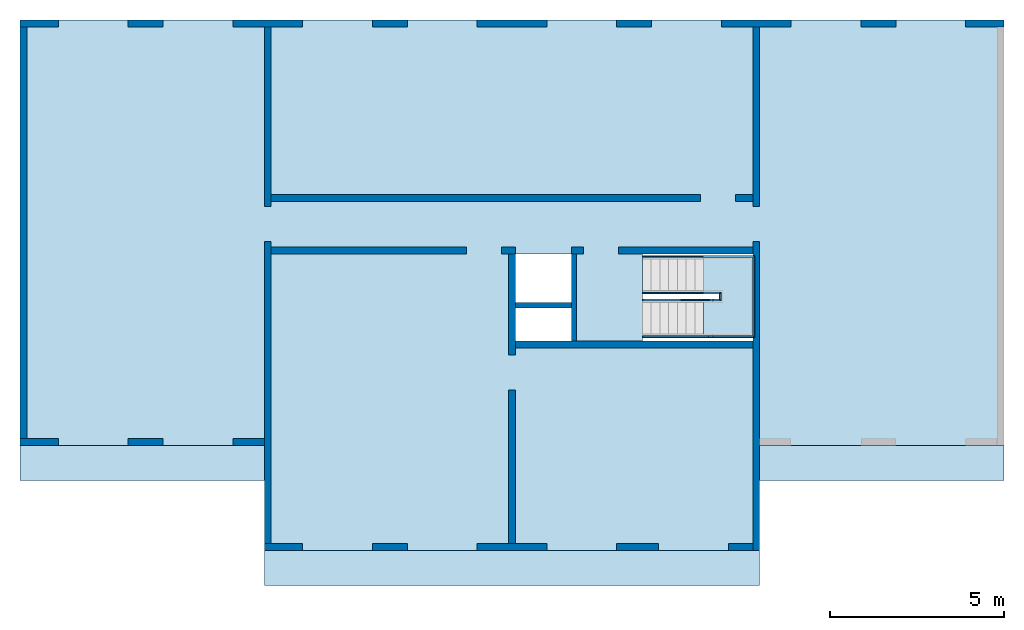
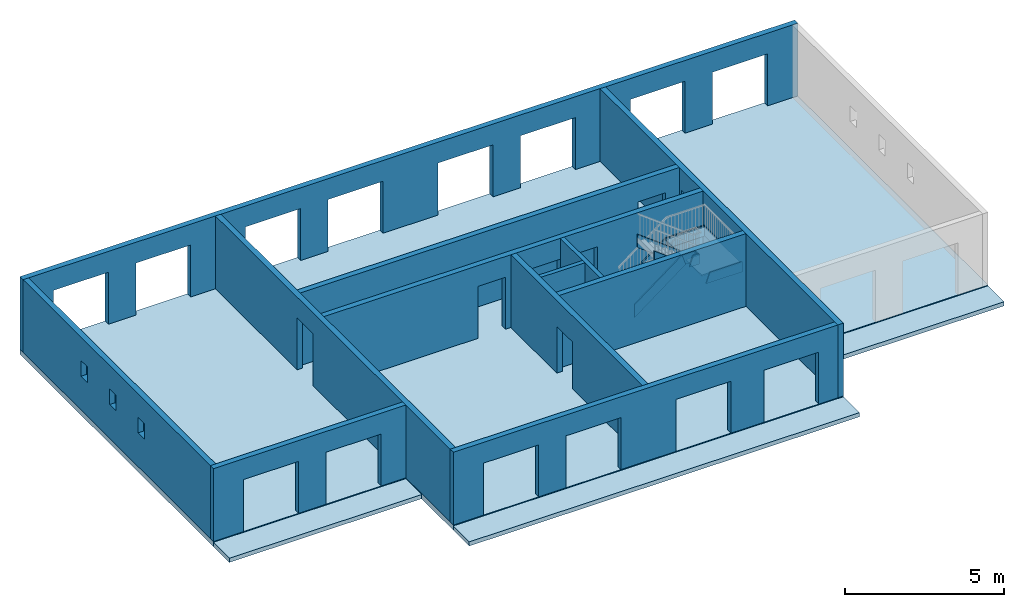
# One storey, part 1 of 3: 12 walls, 10 members, 3 slabs, 27 openings, 1 element without a shape of its own.
"""IFC2X3 building model written with IfcOpenShell, lengths in metres."""

from ifc_helpers import new_model, entity, si_unit, converted_unit, derived_unit, direction, frame, frame_2d, origin, origin_2d_with_axis, place, context, subcontext, project, spatial, polyline, rectangle, outline, extrude, faceted_brep, material, layer, layer_set, layer_usage, type_object, element, aggregate, save


model = new_model("IFC2X3")

# Units and contexts
model_context = context("Model", 3, precision=1e-05, world=origin(), true_north=direction((6.12303176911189e-17, 1.0)))
context_of_model = context(None, 3, precision=1e-05, world=origin(), true_north=direction((6.12303176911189e-17, 1.0)))
body_context = subcontext(model_context, "Body", "Model", "MODEL_VIEW")
ifc_project = project(units=[si_unit("LENGTHUNIT", "METRE"), si_unit("AREAUNIT", "SQUARE_METRE"), si_unit("VOLUMEUNIT", "CUBIC_METRE"), converted_unit("PLANEANGLEUNIT", "DEGREE", entity("IfcRatioMeasure", 0.0174532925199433), si_unit("PLANEANGLEUNIT", "RADIAN"), dimensions=[0, 0, 0, 0, 0, 0, 0]), si_unit("MASSUNIT", "GRAM", prefix="KILO"), derived_unit("MASSDENSITYUNIT", [(si_unit("MASSUNIT", "GRAM", prefix="KILO"), 1), (si_unit("LENGTHUNIT", "METRE"), -3)]), si_unit("TIMEUNIT", "SECOND"), si_unit("FREQUENCYUNIT", "HERTZ"), si_unit("THERMODYNAMICTEMPERATUREUNIT", "DEGREE_CELSIUS"), derived_unit("THERMALTRANSMITTANCEUNIT", [(si_unit("MASSUNIT", "GRAM", prefix="KILO"), 1), (si_unit("THERMODYNAMICTEMPERATUREUNIT", "KELVIN"), -1), (si_unit("TIMEUNIT", "SECOND"), -3)]), derived_unit("VOLUMETRICFLOWRATEUNIT", [(si_unit("LENGTHUNIT", "METRE"), 3), (si_unit("TIMEUNIT", "SECOND"), -1)]), si_unit("ELECTRICCURRENTUNIT", "AMPERE"), si_unit("ELECTRICVOLTAGEUNIT", "VOLT"), si_unit("POWERUNIT", "WATT"), si_unit("FORCEUNIT", "NEWTON"), si_unit("ILLUMINANCEUNIT", "LUX"), si_unit("LUMINOUSFLUXUNIT", "LUMEN"), si_unit("LUMINOUSINTENSITYUNIT", "CANDELA"), derived_unit("USERDEFINED", [(si_unit("MASSUNIT", "GRAM", prefix="KILO"), -1), (si_unit("LENGTHUNIT", "METRE"), -2), (si_unit("TIMEUNIT", "SECOND"), 3), (si_unit("LUMINOUSFLUXUNIT", "LUMEN"), 1)]), derived_unit("LINEARVELOCITYUNIT", [(si_unit("LENGTHUNIT", "METRE"), 1), (si_unit("TIMEUNIT", "SECOND"), -1)]), si_unit("PRESSUREUNIT", "PASCAL"), derived_unit("USERDEFINED", [(si_unit("LENGTHUNIT", "METRE"), -2), (si_unit("MASSUNIT", "GRAM", prefix="KILO"), 1), (si_unit("TIMEUNIT", "SECOND"), -2)])], contexts=[model_context, context_of_model])

# Site, building, storey
site_placement = place(None, origin())
site = spatial("IfcSite", under=ifc_project, at=site_placement, Name="Default", CompositionType="ELEMENT")
building_placement = place(site_placement, origin())
building = spatial("IfcBuilding", under=site, at=building_placement, CompositionType="ELEMENT")
storey_placement = place(building_placement, frame((0.0, 0.0, 9.0)))
storey = spatial("IfcBuildingStorey", under=building, at=storey_placement, Name="R+3", CompositionType="ELEMENT", Elevation=8.99999999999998)

# Stair, members
stair_placement = place(storey_placement, origin())
stair = element("IfcStair", 1, at=stair_placement, inside=storey, Name="Escalier assemblé:Escalier", ObjectType="Escalier assemblé:Contremarche 190 mm max marche 250\xa0mm", ShapeType="NOTDEFINED")
member_type = type_object("IfcMemberType", Name="Limon à la française:Limon à la française - 50 mm de largeur", PredefinedType="STRINGER")
member_1_placement = place(stair_placement, origin())
member_1 = element("IfcMember", 2, at=member_1_placement, type_object=member_type, Name="Escalier assemblé:Escalier:468213 Stringer 1", ObjectType="Escalier assemblé:Contremarche 190 mm max marche 250\xa0mm", context=body_context, shape_type="SweptSolid", body=[
    extrude(outline(polyline([(-0.973212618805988, -0.200000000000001), (1.19067644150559, -0.200000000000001), (1.0569252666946, 0.199999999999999), (-1.27438908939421, 0.2), (-0.973212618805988, -0.200000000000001)])), frame((6.43043564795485, 2.2618101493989, 0.853112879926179), z_axis=(0.0, 1.0, 0.0), x_axis=(0.798870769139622, 0.0, 0.601502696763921)), (0.0, 0.0, 1.0), 0.05),
])
member_2_placement = place(stair_placement, origin())
member_2 = element("IfcMember", 3, at=member_2_placement, type_object=member_type, Name="Escalier assemblé:Escalier:468213 Stringer 2", ObjectType="Escalier assemblé:Contremarche 190 mm max marche 250\xa0mm", context=body_context, shape_type="SweptSolid", body=[
    extrude(outline(polyline([(-0.973212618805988, -0.2), (1.19067644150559, -0.2), (1.05692526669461, 0.2), (-1.27438908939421, 0.2), (-0.973212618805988, -0.2)])), frame((6.43043564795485, 1.2118101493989, 0.853112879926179), z_axis=(0.0, 1.0, 0.0), x_axis=(0.798870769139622, 0.0, 0.601502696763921)), (0.0, 0.0, 1.0), 0.0500000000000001),
])
member_3_placement = place(stair_placement, origin())
member_3 = element("IfcMember", 4, at=member_3_placement, type_object=member_type, Name="Escalier assemblé:Escalier:468213 Stringer 3", ObjectType="Escalier assemblé:Contremarche 190 mm max marche 250\xa0mm", context=body_context, shape_type="SweptSolid", body=[
    extrude(outline(polyline([(-1.2901377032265, -0.2), (1.0726738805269, -0.200000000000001), (1.37385035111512, 0.199999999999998), (-1.15638652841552, 0.199999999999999), (-1.2901377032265, -0.2)])), frame((6.50989234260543, -0.0381898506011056, 2.26487758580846), z_axis=(0.0, 1.0, 0.0), x_axis=(-0.798870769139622, 0.0, 0.60150269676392)), (0.0, 0.0, 1.0), 0.05),
])
member_4_placement = place(stair_placement, origin())
member_4 = element("IfcMember", 5, at=member_4_placement, type_object=member_type, Name="Escalier assemblé:Escalier:468213 Stringer 4", ObjectType="Escalier assemblé:Contremarche 190 mm max marche 250\xa0mm", context=body_context, shape_type="SweptSolid", body=[
    extrude(outline(polyline([(-1.2901377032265, -0.2), (1.0726738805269, -0.200000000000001), (1.37385035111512, 0.199999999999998), (-1.15638652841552, 0.199999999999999), (-1.2901377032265, -0.2)])), frame((6.50989234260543, 1.01181014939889, 2.26487758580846), z_axis=(0.0, 1.0, 0.0), x_axis=(-0.798870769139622, 0.0, 0.60150269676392)), (0.0, 0.0, 1.0), 0.05),
])
member_5_placement = place(stair_placement, frame((7.42024510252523, -0.0381898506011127, 1.32908212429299)))
member_5 = element("IfcMember", 6, at=member_5_placement, type_object=member_type, Name="Escalier assemblé:Escalier:468213 Stringer 5", ObjectType="Escalier assemblé:Contremarche 190 mm max marche 250\xa0mm", context=body_context, shape_type="Brep", body=[
    faceted_brep([(0.133751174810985, 0.0500000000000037, 0.4), (0.133751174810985, 0.0, 0.4), (1.32241889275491, 0.0, 0.4), (1.27241889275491, 0.0500000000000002, 0.4), (0.0, 0.0500000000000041, 0.0), (1.27241889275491, 0.0500000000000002, 0.0), (0.0, 0.0, 0.0), (1.32241889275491, 0.0, 0.0)], [[[0, 1, 2, 3]], [[4, 0, 3, 5]], [[6, 4, 5, 7]], [[1, 6, 7, 2]], [[1, 0, 4, 6]], [[2, 7, 5, 3]]]),
])
member_6_placement = place(stair_placement, origin())
member_6 = element("IfcMember", 7, at=member_6_placement, type_object=member_type, Name="Escalier assemblé:Escalier:468213 Stringer 6", ObjectType="Escalier assemblé:Contremarche 190 mm max marche 250\xa0mm", context=body_context, shape_type="SweptSolid", body=[
    extrude(outline(polyline([(-1.17500000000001, -0.0249999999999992), (1.17500000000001, -0.0249999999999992), (1.125, 0.0250000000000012), (-1.125, 0.0250000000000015), (-1.17500000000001, -0.0249999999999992)])), frame((8.71766399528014, 1.13681014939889, 1.32908212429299), z_axis=(0.0, 0.0, 1.0), x_axis=(0.0, 1.0, 0.0)), (0.0, 0.0, 1.0), 0.4),
])
member_7_placement = place(stair_placement, frame((7.26133171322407, 2.2618101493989, 1.32908212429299)))
member_7 = element("IfcMember", 8, at=member_7_placement, type_object=member_type, Name="Escalier assemblé:Escalier:468213 Stringer 7", ObjectType="Escalier assemblé:Contremarche 190 mm max marche 250\xa0mm", context=body_context, shape_type="Brep", body=[
    faceted_brep([(1.43133228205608, 0.0, 0.4), (1.48133228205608, 0.0499999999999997, 0.4), (0.0, 0.0500000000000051, 0.4), (0.0, 0.0, 0.4), (1.43133228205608, 0.0, 0.0), (0.133751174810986, 0.0, 0.0), (1.48133228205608, 0.0499999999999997, 0.0), (0.133751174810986, 0.0500000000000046, 0.0)], [[[0, 1, 2, 3]], [[4, 0, 3, 5]], [[6, 4, 5, 7]], [[1, 6, 7, 2]], [[1, 0, 4, 6]], [[2, 7, 5, 3]]]),
])
member_8_placement = place(stair_placement, frame((7.26133171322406, 1.2118101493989, 1.32908212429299)))
member_8 = element("IfcMember", 9, at=member_8_placement, type_object=member_type, Name="Escalier assemblé:Escalier:468213 Stringer 8", ObjectType="Escalier assemblé:Contremarche 190 mm max marche 250\xa0mm", context=body_context, shape_type="Brep", body=[
    faceted_brep([(0.0, 0.0500000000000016, 0.4), (0.0, 0.0, 0.4), (0.471332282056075, 0.0, 0.4), (0.521332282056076, 0.0499999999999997, 0.4), (0.133751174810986, 0.0500000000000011, 0.0), (0.521332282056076, 0.0499999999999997, 0.0), (0.133751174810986, 0.0, 0.0), (0.471332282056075, 0.0, 0.0)], [[[0, 1, 2, 3]], [[4, 0, 3, 5]], [[6, 4, 5, 7]], [[1, 6, 7, 2]], [[1, 0, 4, 6]], [[2, 7, 5, 3]]]),
])
member_9_placement = place(stair_placement, origin())
member_9 = element("IfcMember", 10, at=member_9_placement, type_object=member_type, Name="Escalier assemblé:Escalier:468213 Stringer 9", ObjectType="Escalier assemblé:Contremarche 190 mm max marche 250\xa0mm", context=body_context, shape_type="SweptSolid", body=[
    extrude(outline(polyline([(-0.0750000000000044, -0.0250000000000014), (0.0750000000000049, -0.0250000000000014), (0.125000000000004, 0.0249999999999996), (-0.125000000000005, 0.0249999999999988), (-0.0750000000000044, -0.0250000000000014)])), frame((7.75766399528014, 1.13681014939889, 1.32908212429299), z_axis=(0.0, 0.0, 1.0), x_axis=(0.0, -1.0, 0.0)), (0.0, 0.0, 1.0), 0.4),
])
member_10_placement = place(stair_placement, frame((7.42024510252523, 1.01181014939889, 1.32908212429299)))
member_10 = element("IfcMember", 11, at=member_10_placement, type_object=member_type, Name="Escalier assemblé:Escalier:468213 Stringer 10", ObjectType="Escalier assemblé:Contremarche 190 mm max marche 250\xa0mm", context=body_context, shape_type="Brep", body=[
    faceted_brep([(0.36241889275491, 0.0, 0.4), (0.31241889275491, 0.0500000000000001, 0.4), (0.133751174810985, 0.0500000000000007, 0.4), (0.133751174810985, 0.0, 0.4), (0.36241889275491, 0.0, 0.0), (0.0, 0.0, 0.0), (0.31241889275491, 0.0500000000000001, 0.0), (0.0, 0.0500000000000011, 0.0)], [[[0, 1, 2, 3]], [[4, 0, 3, 5]], [[6, 4, 5, 7]], [[1, 6, 7, 2]], [[1, 0, 4, 6]], [[2, 7, 5, 3]]]),
])

# Slab, openings
ifc_material_1 = material(Name="Béton - Coulé sur place - Béton20")
ifc_layer_1 = layer(ifc_material_1, 0.2)
ifc_layer_set_1 = layer_set([ifc_layer_1], Name="Sol:Dalle pleine 200 mm")
ifc_layer_usage_1 = layer_usage(ifc_layer_set_1, "AXIS3", "POSITIVE", 0.0)
slab_1_placement = place(storey_placement, frame((-12.3073360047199, -6.13818985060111, 0.0)))
slab_1 = element("IfcSlab", 12, at=slab_1_placement, inside=storey, material=ifc_layer_usage_1, Name="Sol:Dalle pleine 200 mm", ObjectType="Sol:Dalle pleine 200 mm", PredefinedType="FLOOR", context=body_context, shape_type="SweptSolid", body=[
    extrude(outline(polyline([(-14.1, 7.59999999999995), (-14.1, -4.60000000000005), (-7.1, -4.60000000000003), (-7.09999999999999, -7.60000000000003), (7.10000000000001, -7.59999999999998), (7.10000000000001, -4.59999999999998), (14.1, -4.59999999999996), (14.1, 7.60000000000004), (-14.1, 7.59999999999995)])), frame((14.1, 7.60000000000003, 0.199999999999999), z_axis=(0.0, 0.0, -1.0), x_axis=(-1.0, 0.0, 0.0)), (0.0, 0.0, 1.0), 0.2),
])
opening_1_placement = place(slab_1_placement, frame((15.0, 7.80000000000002, 0.2)))
element("IfcOpeningElement", 13, at=opening_1_placement, cuts=slab_1, Name="Sol:Dalle pleine 200 mm:2", ObjectType="Opening", context=body_context, shape_type="SweptSolid", body=[
    extrude(rectangle(XDim=1.4, YDim=1.6, at=origin_2d_with_axis()), frame((0.0, 0.0, 0.0), z_axis=(0.0, 0.0, -1.0), x_axis=(0.0, -1.0, 0.0)), (0.0, 0.0, 1.0), 0.2),
])
opening_2_placement = place(slab_1_placement, frame((15.0, 6.47500000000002, 0.2)))
element("IfcOpeningElement", 14, at=opening_2_placement, cuts=slab_1, Name="Sol:Dalle pleine 200 mm:3", ObjectType="Opening", context=body_context, shape_type="SweptSolid", body=[
    extrude(rectangle(XDim=0.95, YDim=1.6, at=origin_2d_with_axis()), frame((0.0, 0.0, 0.0), z_axis=(0.0, 0.0, -1.0), x_axis=(0.0, -1.0, 0.0)), (0.0, 0.0, 1.0), 0.2),
])
opening_3_placement = place(slab_1_placement, frame((19.42, 7.25, 0.2)))
element("IfcOpeningElement", 15, at=opening_3_placement, cuts=slab_1, Name="Sol:Dalle pleine 200 mm:4", ObjectType="Opening", context=body_context, shape_type="SweptSolid", body=[
    extrude(rectangle(XDim=3.16, YDim=2.49999999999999, at=origin_2d_with_axis()), frame((0.0, 0.0, 0.0), z_axis=(0.0, 0.0, -1.0), x_axis=(1.0, 0.0, 0.0)), (0.0, 0.0, 1.0), 0.2),
])

# Slab
ifc_layer_2 = layer(ifc_material_1, 0.16)
ifc_layer_set_2 = layer_set([ifc_layer_2], Name="Sol:Balcon 160 mm")
ifc_layer_usage_2 = layer_usage(ifc_layer_set_2, "AXIS3", "POSITIVE", 0.0)
slab_2_placement = place(storey_placement, origin())
element("IfcSlab", 16, at=slab_2_placement, inside=storey, material=ifc_layer_usage_2, Name="Sol:Balcon 160 mm", ObjectType="Sol:Balcon 160 mm", PredefinedType="FLOOR", context=body_context, shape_type="SweptSolid", body=[
    extrude(outline(polyline([(-0.0825000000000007, -0.5), (0.0874999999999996, -0.5), (0.0774999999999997, 0.5), (-0.0825000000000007, 0.5), (-0.0825000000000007, -0.5)])), frame((8.89266399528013, -3.63818985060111, 0.0824999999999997), z_axis=(1.0, 0.0, 0.0), x_axis=(0.0, 0.0, 1.0)), (0.0, 0.0, 1.0), 7.0),
    extrude(outline(polyline([(-0.0825000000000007, -0.5), (0.0874999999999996, -0.5), (0.0774999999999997, 0.5), (-0.0825000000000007, 0.5), (-0.0825000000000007, -0.5)])), frame((-12.3073360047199, -3.63818985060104, 0.0824999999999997), z_axis=(1.0, 0.0, 0.0), x_axis=(0.0, 0.0, 1.0)), (0.0, 0.0, 1.0), 7.0),
    extrude(outline(polyline([(-0.0824999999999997, -0.5), (0.0874999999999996, -0.5), (0.0774999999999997, 0.5), (-0.0824999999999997, 0.5), (-0.0824999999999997, -0.5)])), frame((-5.30733600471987, -6.63818985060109, 0.0824999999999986), z_axis=(1.0, 0.0, 0.0), x_axis=(0.0, 0.0, 1.0)), (0.0, 0.0, 1.0), 14.2),
])

slab_3_placement = place(stair_placement, origin())
slab_3 = element("IfcSlab", 17, at=slab_3_placement, Name="Escalier assemblé:Escalier:468213 Landing 1", ObjectType="Escalier assemblé:Contremarche 190 mm max marche 250\xa0mm", PredefinedType="LANDING", context=body_context, shape_type="SweptSolid", body=[
    extrude(outline(polyline([(-1.125, -0.477500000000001), (-0.125000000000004, -0.477500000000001), (-0.125000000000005, 0.0225000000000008), (0.125000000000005, 0.0225000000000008), (0.125000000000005, -0.477499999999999), (1.12500000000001, -0.477499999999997), (1.125, 0.932500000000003), (-1.12500000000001, 0.932500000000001), (-1.125, -0.477500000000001)])), frame((7.76016399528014, 1.1368101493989, 1.63235294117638), z_axis=(0.0, 0.0, 1.0), x_axis=(0.0, -1.0, 0.0)), (0.0, 0.0, 1.0), 0.0499999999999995),
])

aggregate(stair, [slab_3, member_1, member_2, member_3, member_4, member_5, member_6, member_7, member_8, member_9, member_10])

# Wall, openings
ifc_layer_3 = layer(ifc_material_1, 0.2)
ifc_layer_set_3 = layer_set([ifc_layer_3], Name="Mur de base:Générique - 200 mm")
ifc_layer_usage_3 = layer_usage(ifc_layer_set_3, "AXIS2", "NEGATIVE", 0.1)
wall_type_1 = type_object("IfcWallType", Name="Mur de base:Générique - 200 mm", PredefinedType="STANDARD", material=ifc_layer_set_3)
wall_1_placement = place(storey_placement, frame((-12.3073360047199, 8.96181014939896, 0.199999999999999)))
wall_1 = element("IfcWallStandardCase", 18, at=wall_1_placement, inside=storey, type_object=wall_type_1, material=ifc_layer_usage_3, Name="Mur de base:Générique - 200 mm", ObjectType="Mur de base:Générique - 200 mm:1044", context=body_context, shape_type="SweptSolid", body=[
    extrude(rectangle(XDim=28.2, YDim=0.2, at=frame_2d((14.1, 3.19189119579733e-16), x_axis=(-1.0, 0.0))), origin(), (0.0, 0.0, 1.0), 2.80000000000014),
])
opening_4_placement = place(wall_1_placement, frame((25.1, -0.0999999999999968, 0.0)))
element("IfcOpeningElement", 19, at=opening_4_placement, cuts=wall_1, Name="M_Porte-Ouverture:2000 x 2000 mm:1", ObjectType="Opening", context=body_context, shape_type="SweptSolid", body=[
    extrude(rectangle(XDim=2.0, YDim=2.0, at=frame_2d((1.0, 1.0), x_axis=(-1.0, 0.0))), frame((0.0, 0.0, 0.0), z_axis=(0.0, 1.0, 0.0), x_axis=(0.0, 0.0, 1.0)), (0.0, 0.0, 1.0), 0.2),
])
opening_5_placement = place(wall_1_placement, frame((22.1, -0.10000000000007, 0.0)))
element("IfcOpeningElement", 20, at=opening_5_placement, cuts=wall_1, Name="M_Porte-Ouverture:2000 x 2000 mm:1", ObjectType="Opening", context=body_context, shape_type="SweptSolid", body=[
    extrude(rectangle(XDim=2.0, YDim=2.0, at=frame_2d((1.0, 1.0), x_axis=(-1.0, 0.0))), frame((0.0, 0.0, 0.0), z_axis=(0.0, 1.0, 0.0), x_axis=(0.0, 0.0, 1.0)), (0.0, 0.0, 1.0), 0.2),
])
opening_6_placement = place(wall_1_placement, frame((1.10000000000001, -0.0999999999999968, 0.0)))
element("IfcOpeningElement", 21, at=opening_6_placement, cuts=wall_1, Name="M_Porte-Ouverture:2000 x 2000 mm:1", ObjectType="Opening", context=body_context, shape_type="SweptSolid", body=[
    extrude(rectangle(XDim=2.0, YDim=2.0, at=frame_2d((1.0, 1.0), x_axis=(-1.0, 0.0))), frame((0.0, 0.0, 0.0), z_axis=(0.0, 1.0, 0.0), x_axis=(0.0, 0.0, 1.0)), (0.0, 0.0, 1.0), 0.2),
])
opening_7_placement = place(wall_1_placement, frame((4.1, -0.0999999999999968, 0.0)))
element("IfcOpeningElement", 22, at=opening_7_placement, cuts=wall_1, Name="M_Porte-Ouverture:2000 x 2000 mm:1", ObjectType="Opening", context=body_context, shape_type="SweptSolid", body=[
    extrude(rectangle(XDim=2.0, YDim=2.0, at=frame_2d((1.0, 1.0), x_axis=(-1.0, 0.0))), frame((0.0, 0.0, 0.0), z_axis=(0.0, 1.0, 0.0), x_axis=(0.0, 0.0, 1.0)), (0.0, 0.0, 1.0), 0.2),
])
opening_8_placement = place(wall_1_placement, frame((8.1, -0.0999999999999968, 0.0)))
element("IfcOpeningElement", 23, at=opening_8_placement, cuts=wall_1, Name="M_Porte-Ouverture:2000 x 2000 mm:1", ObjectType="Opening", context=body_context, shape_type="SweptSolid", body=[
    extrude(rectangle(XDim=2.0, YDim=2.0, at=frame_2d((1.0, 1.0), x_axis=(-1.0, 0.0))), frame((0.0, 0.0, 0.0), z_axis=(0.0, 1.0, 0.0), x_axis=(0.0, 0.0, 1.0)), (0.0, 0.0, 1.0), 0.2),
])
opening_9_placement = place(wall_1_placement, frame((18.1, -0.100000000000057, 0.0)))
element("IfcOpeningElement", 24, at=opening_9_placement, cuts=wall_1, Name="M_Porte-Ouverture:2000 x 2000 mm:1", ObjectType="Opening", context=body_context, shape_type="SweptSolid", body=[
    extrude(rectangle(XDim=2.0, YDim=2.0, at=frame_2d((1.0, 1.0), x_axis=(-1.0, 0.0))), frame((0.0, 0.0, 0.0), z_axis=(0.0, 1.0, 0.0), x_axis=(0.0, 0.0, 1.0)), (0.0, 0.0, 1.0), 0.2),
])
opening_10_placement = place(wall_1_placement, frame((15.1, -0.100000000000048, 0.0)))
element("IfcOpeningElement", 25, at=opening_10_placement, cuts=wall_1, Name="M_Porte-Ouverture:2000 x 2000 mm:1", ObjectType="Opening", context=body_context, shape_type="SweptSolid", body=[
    extrude(rectangle(XDim=2.0, YDim=2.0, at=frame_2d((1.0, 1.0), x_axis=(-1.0, 0.0))), frame((0.0, 0.0, 0.0), z_axis=(0.0, 1.0, 0.0), x_axis=(0.0, 0.0, 1.0)), (0.0, 0.0, 1.0), 0.2),
])
opening_11_placement = place(wall_1_placement, frame((11.1, -0.100000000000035, 0.0)))
element("IfcOpeningElement", 26, at=opening_11_placement, cuts=wall_1, Name="M_Porte-Ouverture:2000 x 2000 mm:1", ObjectType="Opening", context=body_context, shape_type="SweptSolid", body=[
    extrude(rectangle(XDim=2.0, YDim=2.0, at=frame_2d((1.0, 1.0), x_axis=(-1.0, 0.0))), frame((0.0, 0.0, 0.0), z_axis=(0.0, 1.0, 0.0), x_axis=(0.0, 0.0, 1.0)), (0.0, 0.0, 1.0), 0.2),
])

# Wall, opening
ifc_layer_usage_4 = layer_usage(ifc_layer_set_3, "AXIS2", "NEGATIVE", 0.1)
wall_2_placement = place(storey_placement, frame((8.79266399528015, 8.86181014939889, 0.199999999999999), z_axis=(0.0, 0.0, 1.0), x_axis=(0.0, -1.0, 0.0)))
wall_2 = element("IfcWallStandardCase", 27, at=wall_2_placement, inside=storey, type_object=wall_type_1, material=ifc_layer_usage_4, Name="Mur de base:Générique - 200 mm", ObjectType="Mur de base:Générique - 200 mm:1044", context=body_context, shape_type="SweptSolid", body=[
    extrude(rectangle(XDim=15.0, YDim=0.2, at=frame_2d((7.5, 0.0), x_axis=(-1.0, 0.0))), origin(), (0.0, 0.0, 1.0), 2.80000000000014),
])
opening_12_placement = place(wall_2_placement, frame((5.15, -0.100000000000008, 0.0)))
element("IfcOpeningElement", 28, at=opening_12_placement, cuts=wall_2, Name="M_Porte-Ouverture:1000 x 2000 mm:1", ObjectType="Opening", context=body_context, shape_type="SweptSolid", body=[
    extrude(rectangle(XDim=2.0, YDim=1.0, at=frame_2d((1.0, 0.5), x_axis=(-1.0, 0.0))), frame((0.0, 0.0, 0.0), z_axis=(0.0, 1.0, 0.0), x_axis=(0.0, 0.0, 1.0)), (0.0, 0.0, 1.0), 0.2),
])

# Wall, openings
ifc_layer_usage_5 = layer_usage(ifc_layer_set_3, "AXIS2", "NEGATIVE", 0.1)
wall_3_placement = place(storey_placement, frame((8.69266399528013, -6.03818985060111, 0.199999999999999), z_axis=(0.0, 0.0, 1.0), x_axis=(-1.0, 0.0, 0.0)))
wall_3 = element("IfcWallStandardCase", 29, at=wall_3_placement, inside=storey, type_object=wall_type_1, material=ifc_layer_usage_5, Name="Mur de base:Générique - 200 mm", ObjectType="Mur de base:Générique - 200 mm:1044", context=body_context, shape_type="SweptSolid", body=[
    extrude(rectangle(XDim=14.0, YDim=0.2, at=frame_2d((7.0, 0.0), x_axis=(-1.0, 0.0))), origin(), (0.0, 0.0, 1.0), 2.80000000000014),
])
opening_13_placement = place(wall_3_placement, frame((10.9, -0.0999999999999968, 0.0)))
element("IfcOpeningElement", 30, at=opening_13_placement, cuts=wall_3, Name="M_Porte-Ouverture:2000 x 2000 mm:1", ObjectType="Opening", context=body_context, shape_type="SweptSolid", body=[
    extrude(rectangle(XDim=2.0, YDim=2.0, at=frame_2d((1.0, 1.0), x_axis=(-1.0, 0.0))), frame((0.0, 0.0, 0.0), z_axis=(0.0, 1.0, 0.0), x_axis=(0.0, 0.0, 1.0)), (0.0, 0.0, 1.0), 0.2),
])
opening_14_placement = place(wall_3_placement, frame((7.9, -0.0999999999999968, 0.0)))
element("IfcOpeningElement", 31, at=opening_14_placement, cuts=wall_3, Name="M_Porte-Ouverture:2000 x 2000 mm:1", ObjectType="Opening", context=body_context, shape_type="SweptSolid", body=[
    extrude(rectangle(XDim=2.0, YDim=2.0, at=frame_2d((1.0, 1.0), x_axis=(-1.0, 0.0))), frame((0.0, 0.0, 0.0), z_axis=(0.0, 1.0, 0.0), x_axis=(0.0, 0.0, 1.0)), (0.0, 0.0, 1.0), 0.2),
])
opening_15_placement = place(wall_3_placement, frame((3.9, -0.0999999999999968, 0.0)))
element("IfcOpeningElement", 32, at=opening_15_placement, cuts=wall_3, Name="M_Porte-Ouverture:2000 x 2000 mm:1", ObjectType="Opening", context=body_context, shape_type="SweptSolid", body=[
    extrude(rectangle(XDim=2.0, YDim=2.0, at=frame_2d((1.0, 1.0), x_axis=(-1.0, 0.0))), frame((0.0, 0.0, 0.0), z_axis=(0.0, 1.0, 0.0), x_axis=(0.0, 0.0, 1.0)), (0.0, 0.0, 1.0), 0.2),
])
opening_16_placement = place(wall_3_placement, frame((0.699999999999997, -0.0999999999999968, 0.0)))
element("IfcOpeningElement", 33, at=opening_16_placement, cuts=wall_3, Name="M_Porte-Ouverture:2000 x 2000 mm:1", ObjectType="Opening", context=body_context, shape_type="SweptSolid", body=[
    extrude(rectangle(XDim=2.0, YDim=2.0, at=frame_2d((1.0, 1.0), x_axis=(-1.0, 0.0))), frame((0.0, 0.0, 0.0), z_axis=(0.0, 1.0, 0.0), x_axis=(0.0, 0.0, 1.0)), (0.0, 0.0, 1.0), 0.2),
])

# Wall, opening
ifc_layer_usage_6 = layer_usage(ifc_layer_set_3, "AXIS2", "NEGATIVE", 0.1)
wall_4_placement = place(storey_placement, frame((-5.20733600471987, -5.93818985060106, 0.199999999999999), z_axis=(0.0, 0.0, 1.0), x_axis=(0.0, 1.0, 0.0)))
wall_4 = element("IfcWallStandardCase", 34, at=wall_4_placement, inside=storey, type_object=wall_type_1, material=ifc_layer_usage_6, Name="Mur de base:Générique - 200 mm", ObjectType="Mur de base:Générique - 200 mm:1044", context=body_context, shape_type="SweptSolid", body=[
    extrude(rectangle(XDim=14.8, YDim=0.2, at=frame_2d((7.4, -1.66533453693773e-16), x_axis=(-1.0, 0.0))), origin(), (0.0, 0.0, 1.0), 2.80000000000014),
])
opening_17_placement = place(wall_4_placement, frame((8.65, -0.0999999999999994, 0.0)))
element("IfcOpeningElement", 35, at=opening_17_placement, cuts=wall_4, Name="M_Porte-Ouverture:1000 x 2000 mm:1", ObjectType="Opening", context=body_context, shape_type="SweptSolid", body=[
    extrude(rectangle(XDim=2.0, YDim=1.0, at=frame_2d((1.0, 0.500000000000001), x_axis=(-1.0, 0.0))), frame((0.0, 0.0, 0.0), z_axis=(0.0, 1.0, 0.0), x_axis=(0.0, 0.0, 1.0)), (0.0, 0.0, 1.0), 0.2),
])

# Wall, openings
ifc_layer_usage_7 = layer_usage(ifc_layer_set_3, "AXIS2", "NEGATIVE", 0.1)
wall_5_placement = place(storey_placement, frame((-5.30733600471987, -3.03818985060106, 0.199999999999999), z_axis=(0.0, 0.0, 1.0), x_axis=(-1.0, 0.0, 0.0)))
wall_5 = element("IfcWallStandardCase", 36, at=wall_5_placement, inside=storey, type_object=wall_type_1, material=ifc_layer_usage_7, Name="Mur de base:Générique - 200 mm", ObjectType="Mur de base:Générique - 200 mm:1044", context=body_context, shape_type="SweptSolid", body=[
    extrude(rectangle(XDim=7.0, YDim=0.2, at=frame_2d((3.5, 0.0), x_axis=(-1.0, 0.0))), origin(), (0.0, 0.0, 1.0), 2.80000000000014),
])
opening_18_placement = place(wall_5_placement, frame((3.9, -0.100000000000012, 0.0)))
element("IfcOpeningElement", 37, at=opening_18_placement, cuts=wall_5, Name="M_Porte-Ouverture:2000 x 2000 mm:1", ObjectType="Opening", context=body_context, shape_type="SweptSolid", body=[
    extrude(rectangle(XDim=2.0, YDim=2.0, at=frame_2d((1.0, 1.0), x_axis=(-1.0, 0.0))), frame((0.0, 0.0, 0.0), z_axis=(0.0, 1.0, 0.0), x_axis=(0.0, 0.0, 1.0)), (0.0, 0.0, 1.0), 0.2),
])
opening_19_placement = place(wall_5_placement, frame((0.900000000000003, -0.100000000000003, 0.0)))
element("IfcOpeningElement", 38, at=opening_19_placement, cuts=wall_5, Name="M_Porte-Ouverture:2000 x 2000 mm:1", ObjectType="Opening", context=body_context, shape_type="SweptSolid", body=[
    extrude(rectangle(XDim=2.0, YDim=2.0, at=frame_2d((1.0, 1.0), x_axis=(-1.0, 0.0))), frame((0.0, 0.0, 0.0), z_axis=(0.0, 1.0, 0.0), x_axis=(0.0, 0.0, 1.0)), (0.0, 0.0, 1.0), 0.2),
])

ifc_layer_usage_8 = layer_usage(ifc_layer_set_3, "AXIS2", "NEGATIVE", 0.1)
wall_6_placement = place(storey_placement, frame((-12.2073360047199, -2.93818985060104, 0.199999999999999), z_axis=(0.0, 0.0, 1.0), x_axis=(0.0, 1.0, 0.0)))
wall_6 = element("IfcWallStandardCase", 39, at=wall_6_placement, inside=storey, type_object=wall_type_1, material=ifc_layer_usage_8, Name="Mur de base:Générique - 200 mm", ObjectType="Mur de base:Générique - 200 mm:1044", context=body_context, shape_type="SweptSolid", body=[
    extrude(rectangle(XDim=11.8, YDim=0.199999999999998, at=frame_2d((5.9, -1.59594559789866e-16), x_axis=(-1.0, 0.0))), origin(), (0.0, 0.0, 1.0), 2.80000000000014),
])
opening_20_placement = place(wall_6_placement, frame((5.95, -0.1, 1.29999999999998)))
element("IfcOpeningElement", 40, at=opening_20_placement, cuts=wall_6, Name="M_Fenêtre-Ouverture carrée:0400 x 600mm:1", ObjectType="Opening", context=body_context, shape_type="SweptSolid", body=[
    extrude(rectangle(XDim=0.6, YDim=0.4, at=frame_2d((0.3, 0.2), x_axis=(-1.0, 0.0))), frame((0.0, 0.0, 0.0), z_axis=(0.0, 1.0, 0.0), x_axis=(0.0, 0.0, 1.0)), (0.0, 0.0, 1.0), 0.2),
])
opening_21_placement = place(wall_6_placement, frame((7.75, -0.1, 1.29999999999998)))
element("IfcOpeningElement", 41, at=opening_21_placement, cuts=wall_6, Name="M_Fenêtre-Ouverture carrée:0400 x 600mm:1", ObjectType="Opening", context=body_context, shape_type="SweptSolid", body=[
    extrude(rectangle(XDim=0.6, YDim=0.4, at=frame_2d((0.3, 0.2), x_axis=(-1.0, 0.0))), frame((0.0, 0.0, 0.0), z_axis=(0.0, 1.0, 0.0), x_axis=(0.0, 0.0, 1.0)), (0.0, 0.0, 1.0), 0.2),
])
opening_22_placement = place(wall_6_placement, frame((4.15, -0.1, 1.29999999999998)))
element("IfcOpeningElement", 42, at=opening_22_placement, cuts=wall_6, Name="M_Fenêtre-Ouverture carrée:0400 x 600mm:1", ObjectType="Opening", context=body_context, shape_type="SweptSolid", body=[
    extrude(rectangle(XDim=0.6, YDim=0.4, at=frame_2d((0.3, 0.2), x_axis=(-1.0, 0.0))), frame((0.0, 0.0, 0.0), z_axis=(0.0, 1.0, 0.0), x_axis=(0.0, 0.0, 1.0)), (0.0, 0.0, 1.0), 0.2),
])

# Wall, opening
ifc_layer_usage_9 = layer_usage(ifc_layer_set_3, "AXIS2", "NEGATIVE", 0.1)
wall_7_placement = place(storey_placement, frame((-5.10733600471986, 3.96181014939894, 0.199999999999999)))
wall_7 = element("IfcWallStandardCase", 43, at=wall_7_placement, inside=storey, type_object=wall_type_1, material=ifc_layer_usage_9, Name="Mur de base:Générique - 200 mm", ObjectType="Mur de base:Générique - 200 mm:1044", context=body_context, shape_type="SweptSolid", body=[
    extrude(rectangle(XDim=13.8, YDim=0.2, at=frame_2d((6.9, 2.22044604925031e-16), x_axis=(-1.0, 0.0))), origin(), (0.0, 0.0, 1.0), 2.80000000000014),
])
opening_23_placement = place(wall_7_placement, frame((12.3, -0.0999999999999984, 0.0)))
element("IfcOpeningElement", 44, at=opening_23_placement, cuts=wall_7, Name="M_Porte-Ouverture:1000 x 2000 mm:1", ObjectType="Opening", context=body_context, shape_type="SweptSolid", body=[
    extrude(rectangle(XDim=2.0, YDim=1.0, at=frame_2d((1.0, 0.500000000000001), x_axis=(-1.0, 0.0))), frame((0.0, 0.0, 0.0), z_axis=(0.0, 1.0, 0.0), x_axis=(0.0, 0.0, 1.0)), (0.0, 0.0, 1.0), 0.2),
])

# Wall, openings
ifc_layer_usage_10 = layer_usage(ifc_layer_set_3, "AXIS2", "NEGATIVE", 0.1)
wall_8_placement = place(storey_placement, frame((8.69266399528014, 2.46181014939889, 0.199999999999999), z_axis=(0.0, 0.0, 1.0), x_axis=(-1.0, 0.0, 0.0)))
wall_8 = element("IfcWallStandardCase", 45, at=wall_8_placement, inside=storey, type_object=wall_type_1, material=ifc_layer_usage_10, Name="Mur de base:Générique - 200 mm", ObjectType="Mur de base:Générique - 200 mm:1044", context=body_context, shape_type="SweptSolid", body=[
    extrude(rectangle(XDim=13.8, YDim=0.2, at=frame_2d((6.9, 8.32667268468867e-17), x_axis=(-1.0, 0.0))), origin(), (0.0, 0.0, 1.0), 2.80000000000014),
])
opening_24_placement = place(wall_8_placement, frame((7.2, -0.100000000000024, 0.0)))
element("IfcOpeningElement", 46, at=opening_24_placement, cuts=wall_8, Name="M_Porte-Ouverture:1000 x 2000 mm:1", ObjectType="Opening", context=body_context, shape_type="SweptSolid", body=[
    extrude(rectangle(XDim=2.0, YDim=1.0, at=frame_2d((1.0, 0.5), x_axis=(-1.0, 0.0))), frame((0.0, 0.0, 0.0), z_axis=(0.0, 1.0, 0.0), x_axis=(0.0, 0.0, 1.0)), (0.0, 0.0, 1.0), 0.2),
])
opening_25_placement = place(wall_8_placement, frame((3.85, -0.0999999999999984, 0.0)))
element("IfcOpeningElement", 47, at=opening_25_placement, cuts=wall_8, Name="M_Porte-Ouverture:1000 x 2000 mm:1", ObjectType="Opening", context=body_context, shape_type="SweptSolid", body=[
    extrude(rectangle(XDim=2.0, YDim=1.0, at=frame_2d((1.0, 0.5), x_axis=(-1.0, 0.0))), frame((0.0, 0.0, 0.0), z_axis=(0.0, 1.0, 0.0), x_axis=(0.0, 0.0, 1.0)), (0.0, 0.0, 1.0), 0.2),
])
opening_26_placement = place(wall_8_placement, frame((5.2, -0.0999999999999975, 0.0)))
element("IfcOpeningElement", 48, at=opening_26_placement, cuts=wall_8, Name="M_Porte-Ouverture:1600 x 2000 mm:1", ObjectType="Opening", context=body_context, shape_type="SweptSolid", body=[
    extrude(rectangle(XDim=2.0, YDim=1.6, at=frame_2d((1.0, 0.8), x_axis=(-1.0, 0.0))), frame((0.0, 0.0, 0.0), z_axis=(0.0, 1.0, 0.0), x_axis=(0.0, 0.0, 1.0)), (0.0, 0.0, 1.0), 0.2),
])

# Wall, opening
ifc_layer_usage_11 = layer_usage(ifc_layer_set_3, "AXIS2", "NEGATIVE", 0.1)
wall_9_placement = place(storey_placement, frame((1.79266399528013, -5.93818985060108, 0.199999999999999), z_axis=(0.0, 0.0, 1.0), x_axis=(0.0, 1.0, 0.0)))
wall_9 = element("IfcWallStandardCase", 49, at=wall_9_placement, inside=storey, type_object=wall_type_1, material=ifc_layer_usage_11, Name="Mur de base:Générique - 200 mm", ObjectType="Mur de base:Générique - 200 mm:1044", context=body_context, shape_type="SweptSolid", body=[
    extrude(rectangle(XDim=8.3, YDim=0.2, at=frame_2d((4.15, 1.11022302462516e-16), x_axis=(-1.0, 0.0))), origin(), (0.0, 0.0, 1.0), 2.80000000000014),
])
opening_27_placement = place(wall_9_placement, frame((4.4, -0.100000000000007, -0.200000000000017)))
element("IfcOpeningElement", 50, at=opening_27_placement, cuts=wall_9, Name="M_Porte-Ouverture:1000 x 2000 mm:1", ObjectType="Opening", context=body_context, shape_type="SweptSolid", body=[
    extrude(rectangle(XDim=2.0, YDim=1.0, at=frame_2d((1.0, 0.5), x_axis=(-1.0, 0.0))), frame((0.0, 0.0, 0.0), z_axis=(0.0, 1.0, 0.0), x_axis=(0.0, 0.0, 1.0)), (0.0, 0.0, 1.0), 0.2),
])

# Walls
ifc_layer_usage_12 = layer_usage(ifc_layer_set_3, "AXIS2", "NEGATIVE", 0.1)
wall_10_placement = place(storey_placement, frame((1.89266399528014, -0.238189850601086, 0.199999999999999)))
element("IfcWallStandardCase", 51, at=wall_10_placement, inside=storey, type_object=wall_type_1, material=ifc_layer_usage_12, Name="Mur de base:Générique - 200 mm", ObjectType="Mur de base:Générique - 200 mm:1044", context=body_context, shape_type="SweptSolid", body=[
    extrude(rectangle(XDim=6.8, YDim=0.2, at=frame_2d((3.4, 2.08166817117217e-17), x_axis=(-1.0, 0.0))), origin(), (0.0, 0.0, 1.0), 2.80000000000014),
])
ifc_material_2 = material(Name="Blocs béton manufacturés")
ifc_layer_4 = layer(ifc_material_2, 0.15)
ifc_layer_set_4 = layer_set([ifc_layer_4], Name="Mur de base:Générique - 150 mm")
ifc_layer_usage_13 = layer_usage(ifc_layer_set_4, "AXIS2", "NEGATIVE", 0.075)
wall_type_2 = type_object("IfcWallType", Name="Mur de base:Générique - 150 mm", PredefinedType="STANDARD", material=ifc_layer_set_4)
wall_11_placement = place(storey_placement, frame((3.56766399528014, 2.36181014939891, 0.199999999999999), z_axis=(0.0, 0.0, 1.0), x_axis=(0.0, -1.0, 0.0)))
element("IfcWallStandardCase", 52, at=wall_11_placement, inside=storey, type_object=wall_type_2, material=ifc_layer_usage_13, Name="Mur de base:Générique - 150 mm", ObjectType="Mur de base:Générique - 150 mm", context=body_context, shape_type="SweptSolid", body=[
    extrude(rectangle(XDim=2.5, YDim=0.149999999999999, at=frame_2d((1.25, -1.59594559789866e-16), x_axis=(-1.0, 0.0))), origin(), (0.0, 0.0, 1.0), 2.80000000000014),
])
ifc_layer_usage_14 = layer_usage(ifc_layer_set_4, "AXIS2", "NEGATIVE", 0.075)
wall_12_placement = place(storey_placement, frame((1.89266399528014, 0.886810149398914, 0.0)))
element("IfcWallStandardCase", 53, at=wall_12_placement, inside=storey, type_object=wall_type_2, material=ifc_layer_usage_14, Name="Mur de base:Générique - 150 mm", ObjectType="Mur de base:Générique - 150 mm", context=body_context, shape_type="SweptSolid", body=[
    extrude(rectangle(XDim=1.6, YDim=0.15, at=frame_2d((0.8, -3.46944695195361e-17), x_axis=(-1.0, 0.0))), origin(), (0.0, 0.0, 1.0), 3.00000000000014),
])

save(model, "model.ifc")
